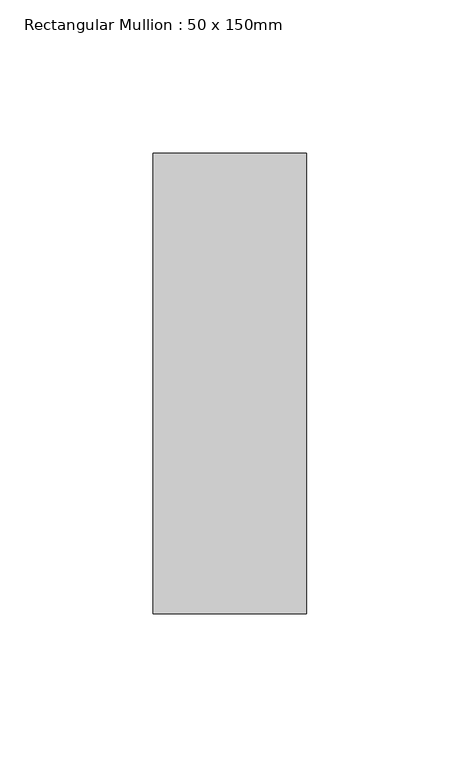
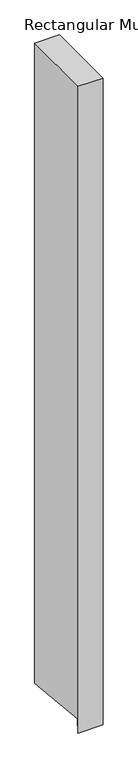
"""IFC4 building model written with IfcOpenShell, lengths in millimetres: member geometry, Rectangular Mullion : 50 x 150mm."""

from ifc_helpers import new_model, si_unit, frame, origin, place, context, project, spatial, polyline, outline, extrude, source, transform, mapped, element, save


def rectangular_mullion_50_x_150mm_79b6b99f(model_context):
    return source(origin(), model_context, "Body", "SweptSolid", [
        extrude(outline(polyline([(-75.0, 0.0), (75.0, 0.0), (75.0, -1348.1007069), (-72.3032509, -1334.1244191), (-75.0, -1362.5468382), (-75.0, 0.0)])), frame((-50.0, 0.0, 0.0), z_axis=(1.0, 0.0, 0.0), x_axis=(0.0, 1.0, 0.0)), (0.0, 0.0, 1.0), 50.0),
    ])


if __name__ == "__main__":
    model = new_model("IFC4")
    model_context = context("Model", 3, world=origin())
    ifc_project = project(units=[si_unit("LENGTHUNIT", "METRE", prefix="MILLI")], contexts=[model_context])
    site = spatial("IfcSite", under=ifc_project)
    building = spatial("IfcBuilding", under=site)
    placement = place(None, origin())
    rectangular_mullion_50_x_150mm_shape = rectangular_mullion_50_x_150mm_79b6b99f(model_context)
    element("IfcMember", 1, ObjectType="Rectangular Mullion : 50 x 150mm", at=placement, inside=building, context=model_context, shape_type="MappedRepresentation", body=[
        mapped(rectangular_mullion_50_x_150mm_shape, transform((0.0, 0.0, 0.0), x_axis=(1.0, 0.0, 0.0), y_axis=(0.0, 1.0, 0.0), z_axis=(0.0, 0.0, 1.0))),
    ])
    save(model, "model.ifc")
